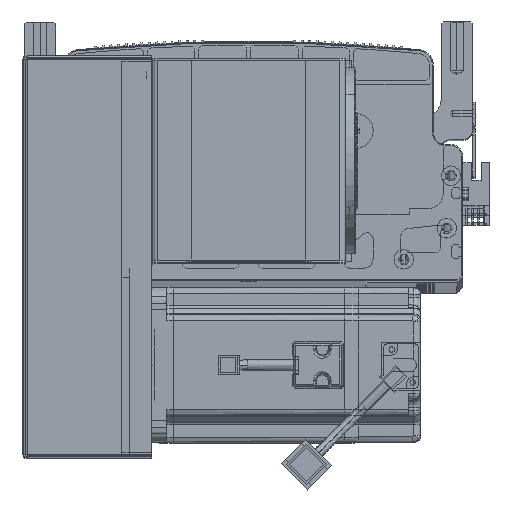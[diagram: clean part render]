
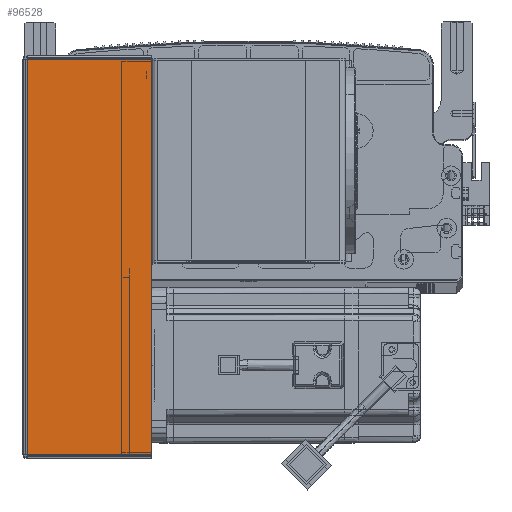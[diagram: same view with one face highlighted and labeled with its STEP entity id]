
A CAD part, top view. The second image highlights one B-rep face of the part: STEP entity #96528.
In plain terms, the highlighted planar face has unit normal (0, 0, 1) as drawn and (0, -1, 0) by its records, which use the part's own axes.
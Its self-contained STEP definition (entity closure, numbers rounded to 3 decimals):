
#3002 = EDGE_CURVE ( 'NONE', #73933, #13207, #91651, .T. ) ;
#5651 = VECTOR ( 'NONE', #90804, 1000. ) ;
#13094 = CARTESIAN_POINT ( 'NONE',  ( 0., -1.5, -0.707 ) ) ;
#13207 = VERTEX_POINT ( 'NONE', #49572 ) ;
#19515 = DIRECTION ( 'NONE',  ( 0., 1., 0. ) ) ;
#19840 = DIRECTION ( 'NONE',  ( -1., 0., 0. ) ) ;
#27887 = CARTESIAN_POINT ( 'NONE',  ( 0., -1.5, 0. ) ) ;
#30098 = VERTEX_POINT ( 'NONE', #69847 ) ;
#30949 = LINE ( 'NONE', #75340, #5651 ) ;
#32431 = CARTESIAN_POINT ( 'NONE',  ( 64.5, -1.5, -0.707 ) ) ;
#36891 = DIRECTION ( 'NONE',  ( 1., 0., 0. ) ) ;
#40774 = LINE ( 'NONE', #50767, #92562 ) ;
#45033 = ORIENTED_EDGE ( 'NONE', *, *, #91983, .T. ) ;
#49572 = CARTESIAN_POINT ( 'NONE',  ( 0.737, -1.5, -0.707 ) ) ;
#50767 = CARTESIAN_POINT ( 'NONE',  ( 0., -1.5, -203.293 ) ) ;
#50889 = FACE_OUTER_BOUND ( 'NONE', #86102, .T. ) ;
#51840 = DIRECTION ( 'NONE',  ( 1., 0., 0. ) ) ;
#54751 = VERTEX_POINT ( 'NONE', #32431 ) ;
#58287 = CARTESIAN_POINT ( 'NONE',  ( 0.737, -1.5, -203.293 ) ) ;
#62840 = AXIS2_PLACEMENT_3D ( 'NONE', #27887, #19515, #19840 ) ;
#69231 = ORIENTED_EDGE ( 'NONE', *, *, #3002, .F. ) ;
#69847 = CARTESIAN_POINT ( 'NONE',  ( 64.5, -1.5, -203.293 ) ) ;
#70636 = VECTOR ( 'NONE', #51840, 1000. ) ;
#70879 = EDGE_CURVE ( 'NONE', #13207, #54751, #73016, .T. ) ;
#71118 = PLANE ( 'NONE',  #62840 ) ;
#73016 = LINE ( 'NONE', #13094, #70636 ) ;
#73933 = VERTEX_POINT ( 'NONE', #58287 ) ;
#75340 = CARTESIAN_POINT ( 'NONE',  ( 64.5, -1.5, 0. ) ) ;
#78458 = DIRECTION ( 'NONE',  ( 0., 0., 1. ) ) ;
#86102 = EDGE_LOOP ( 'NONE', ( #69231, #45033, #88658, #91960 ) ) ;
#88658 = ORIENTED_EDGE ( 'NONE', *, *, #98965, .T. ) ;
#90804 = DIRECTION ( 'NONE',  ( 0., 0., 1. ) ) ;
#91651 = LINE ( 'NONE', #93564, #97591 ) ;
#91960 = ORIENTED_EDGE ( 'NONE', *, *, #70879, .F. ) ;
#91983 = EDGE_CURVE ( 'NONE', #73933, #30098, #40774, .T. ) ;
#92562 = VECTOR ( 'NONE', #36891, 1000. ) ;
#93564 = CARTESIAN_POINT ( 'NONE',  ( 0.737, -1.5, 0. ) ) ;
#96528 = ADVANCED_FACE ( 'NONE', ( #50889 ), #71118, .F. ) ;
#97591 = VECTOR ( 'NONE', #78458, 1000. ) ;
#98965 = EDGE_CURVE ( 'NONE', #30098, #54751, #30949, .T. ) ;
